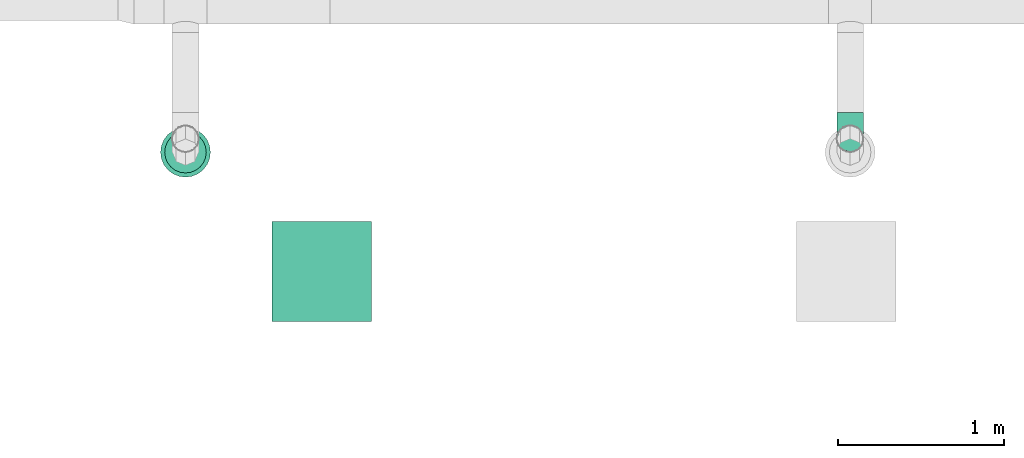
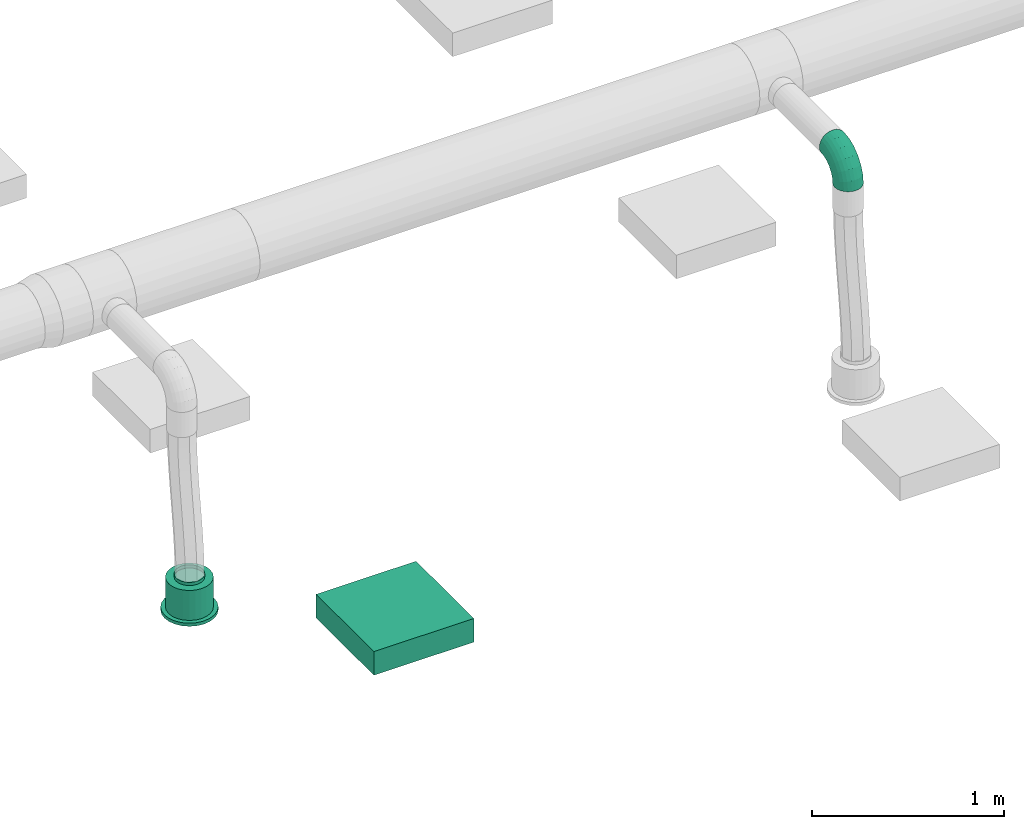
# One storey, part 59 of 374: 1 distribution element, 1 flow fitting, 1 flow terminal.
"""IFC2X3 building model written with IfcOpenShell, lengths in metres."""

from ifc_helpers import new_model, si_unit, direction, frame, frame_2d, origin, place, context, subcontext, project, spatial, rectangle, extrude, open_shell, surface_model, source, transform, mapped, element, save


model = new_model("IFC2X3")

# Units and contexts
model_context = context("Model", 3, precision=1e-05, world=origin(), true_north=direction((-0.4480736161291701, 0.8939966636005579)))
body_context = subcontext(model_context, "Body", "Model", "MODEL_VIEW")
ifc_project = project(units=[si_unit("LENGTHUNIT", "METRE"), si_unit("AREAUNIT", "SQUARE_METRE"), si_unit("VOLUMEUNIT", "CUBIC_METRE"), si_unit("PLANEANGLEUNIT", "RADIAN"), si_unit("THERMODYNAMICTEMPERATUREUNIT", "KELVIN"), si_unit("MASSUNIT", "GRAM", prefix="KILO"), si_unit("TIMEUNIT", "SECOND")], contexts=[model_context])

# Site, building, storey
site_placement = place(None, origin())
site = spatial("IfcSite", under=ifc_project, at=site_placement, Name="Site 1", CompositionType="ELEMENT")
building_placement = place(site_placement, origin())
building = spatial("IfcBuilding", under=site, at=building_placement, Name="Undefined", CompositionType="ELEMENT")
storey_placement = place(building_placement, origin())
storey = spatial("IfcBuildingStorey", under=building, at=storey_placement, Name="Rez de chauss\x8ee", CompositionType="ELEMENT", Elevation=0.0)

# Flow terminal
shared_shape_1 = source(origin(), body_context, "Body", "SurfaceModel", [
    surface_model("IfcFaceBasedSurfaceModel", [(0.0, 0.0, 0.0), (0.03915785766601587, 0.0, 0.0), (0.03915785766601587, 0.020000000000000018, 0.0), (3.552713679e-15, 0.020000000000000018, 0.0), (0.07698144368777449, 0.0, -0.010134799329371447), (0.07698144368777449, 0.020000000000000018, -0.010134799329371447), (0.11089314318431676, 0.0, -0.02971372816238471), (0.11089314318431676, 0.020000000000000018, -0.02971372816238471), (0.13858192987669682, 0.0, -0.05740251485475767), (0.13858192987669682, 0.020000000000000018, -0.05740251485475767), (0.15816085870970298, 0.0, -0.09131421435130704), (0.15816085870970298, 0.020000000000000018, -0.09131421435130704), (0.16829565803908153, 0.0, -0.12913780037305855), (0.16829565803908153, 0.020000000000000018, -0.12913780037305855), (0.16829565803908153, 0.0, -0.16829565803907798), (0.16829565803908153, 0.020000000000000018, -0.16829565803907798), (0.15816085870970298, 0.0, -0.20611924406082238), (0.15816085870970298, 0.020000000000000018, -0.20611924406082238), (0.13858192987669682, 0.0, -0.24003094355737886), (0.13858192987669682, 0.020000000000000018, -0.24003094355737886), (0.11089314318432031, 0.0, -0.2677197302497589), (0.11089314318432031, 0.020000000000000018, -0.2677197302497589), (0.07698144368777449, 0.0, -0.2872986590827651), (0.07698144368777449, 0.020000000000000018, -0.2872986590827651), (0.039157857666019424, 0.0, -0.29743345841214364), (0.039157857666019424, 0.020000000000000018, -0.29743345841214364), (3.552713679e-15, 0.0, -0.29743345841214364), (3.552713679e-15, 0.020000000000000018, -0.29743345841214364), (-0.03782358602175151, 0.0, -0.2872986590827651), (-0.03782358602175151, 0.020000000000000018, -0.2872986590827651), (-0.07173528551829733, 0.0, -0.2677197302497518), (-0.07173528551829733, 0.020000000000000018, -0.2677197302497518), (-0.0994240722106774, 0.0, -0.24003094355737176), (-0.0994240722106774, 0.020000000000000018, -0.24003094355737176), (-0.11900300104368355, 0.0, -0.2061192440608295), (-0.11900300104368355, 0.020000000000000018, -0.2061192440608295), (-0.1291378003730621, 0.0, -0.16829565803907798), (-0.1291378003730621, 0.020000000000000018, -0.16829565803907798), (-0.1291378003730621, 0.0, -0.12913780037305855), (-0.1291378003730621, 0.020000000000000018, -0.12913780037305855), (-0.11900300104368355, 0.0, -0.09131421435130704), (-0.11900300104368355, 0.020000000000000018, -0.09131421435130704), (-0.0994240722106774, 0.0, -0.05740251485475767), (-0.0994240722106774, 0.020000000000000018, -0.05740251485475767), (-0.07173528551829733, 0.0, -0.029713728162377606), (-0.07173528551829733, 0.020000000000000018, -0.029713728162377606), (-0.03782358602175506, 0.0, -0.010134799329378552), (-0.03782358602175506, 0.020000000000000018, -0.010134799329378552), (0.019578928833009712, 0.0, -0.14871672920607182), (0.019578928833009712, 0.020000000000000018, -0.14871672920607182), (0.003263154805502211, 0.020000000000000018, -0.02478612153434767), (0.035894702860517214, 0.020000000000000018, -0.02478612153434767), (0.035894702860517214, 0.20999999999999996, -0.02478612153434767), (0.003263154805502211, 0.20999999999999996, -0.02478612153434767), (0.06741435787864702, 0.020000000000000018, -0.033231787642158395), (0.06741435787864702, 0.20999999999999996, -0.033231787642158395), (0.0956741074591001, 0.020000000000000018, -0.04954756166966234), (0.0956741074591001, 0.20999999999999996, -0.04954756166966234), (0.11874809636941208, 0.020000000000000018, -0.07262155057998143), (0.11874809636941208, 0.20999999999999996, -0.07262155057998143), (0.13506387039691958, 0.020000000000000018, -0.10088130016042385), (0.13506387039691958, 0.20999999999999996, -0.10088130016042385), (0.1435095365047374, 0.020000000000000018, -0.13240095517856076), (0.1435095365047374, 0.20999999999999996, -0.13240095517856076), (0.1435095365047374, 0.020000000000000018, -0.16503250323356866), (0.1435095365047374, 0.20999999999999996, -0.16503250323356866), (0.13506387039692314, 0.020000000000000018, -0.19655215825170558), (0.13506387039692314, 0.20999999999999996, -0.19655215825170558), (0.11874809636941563, 0.020000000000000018, -0.2248119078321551), (0.11874809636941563, 0.20999999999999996, -0.2248119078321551), (0.09567410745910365, 0.020000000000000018, -0.24788589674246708), (0.09567410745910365, 0.20999999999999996, -0.24788589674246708), (0.06741435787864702, 0.020000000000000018, -0.26420167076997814), (0.06741435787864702, 0.20999999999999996, -0.26420167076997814), (0.035894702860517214, 0.020000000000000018, -0.27264733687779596), (0.035894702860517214, 0.20999999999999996, -0.27264733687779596), (0.0032631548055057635, 0.020000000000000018, -0.27264733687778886), (0.0032631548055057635, 0.20999999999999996, -0.27264733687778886), (-0.028256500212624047, 0.020000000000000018, -0.26420167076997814), (-0.028256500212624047, 0.20999999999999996, -0.26420167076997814), (-0.05651624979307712, 0.020000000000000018, -0.2478858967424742), (-0.05651624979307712, 0.20999999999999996, -0.2478858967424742), (-0.07959023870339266, 0.020000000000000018, -0.2248119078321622), (-0.07959023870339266, 0.20999999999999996, -0.2248119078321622), (-0.09590601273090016, 0.020000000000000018, -0.19655215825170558), (-0.09590601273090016, 0.20999999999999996, -0.19655215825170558), (-0.10435167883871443, 0.020000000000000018, -0.16503250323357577), (-0.10435167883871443, 0.20999999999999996, -0.16503250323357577), (-0.10435167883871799, 0.020000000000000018, -0.13240095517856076), (-0.10435167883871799, 0.20999999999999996, -0.13240095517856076), (-0.09590601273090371, 0.020000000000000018, -0.10088130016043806), (-0.09590601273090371, 0.20999999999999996, -0.10088130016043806), (-0.07959023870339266, 0.020000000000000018, -0.07262155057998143), (-0.07959023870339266, 0.20999999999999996, -0.07262155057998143), (-0.056516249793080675, 0.020000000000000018, -0.04954756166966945), (-0.056516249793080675, 0.20999999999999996, -0.04954756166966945), (-0.028256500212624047, 0.020000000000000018, -0.033231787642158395), (-0.028256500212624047, 0.20999999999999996, -0.033231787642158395), (0.019578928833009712, 0.20999999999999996, -0.14871672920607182), (0.009136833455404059, 0.20999999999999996, -0.06940114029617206), (0.030021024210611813, 0.20999999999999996, -0.06940114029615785), (0.030021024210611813, 0.22999999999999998, -0.06940114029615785), (0.009136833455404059, 0.22999999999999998, -0.06940114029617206), (0.05019360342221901, 0.20999999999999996, -0.07480636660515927), (0.05019360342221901, 0.22999999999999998, -0.07480636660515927), (0.06827984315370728, 0.20999999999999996, -0.08524846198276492), (0.06827984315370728, 0.22999999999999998, -0.08524846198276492), (0.0830471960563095, 0.20999999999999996, -0.10001581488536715), (0.0830471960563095, 0.22999999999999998, -0.10001581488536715), (0.0934892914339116, 0.20999999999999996, -0.11810205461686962), (0.0934892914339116, 0.22999999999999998, -0.11810205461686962), (0.09889451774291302, 0.20999999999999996, -0.13827463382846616), (0.09889451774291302, 0.22999999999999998, -0.13827463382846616), (0.09889451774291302, 0.20999999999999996, -0.15915882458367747), (0.09889451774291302, 0.22999999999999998, -0.15915882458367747), (0.09348929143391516, 0.20999999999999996, -0.179331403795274), (0.09348929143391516, 0.22999999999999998, -0.179331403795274), (0.0830471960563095, 0.20999999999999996, -0.19741764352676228), (0.0830471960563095, 0.22999999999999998, -0.19741764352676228), (0.06827984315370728, 0.20999999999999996, -0.2121849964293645), (0.06827984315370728, 0.22999999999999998, -0.2121849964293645), (0.05019360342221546, 0.20999999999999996, -0.22262709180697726), (0.05019360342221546, 0.22999999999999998, -0.22262709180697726), (0.030021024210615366, 0.20999999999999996, -0.22803231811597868), (0.030021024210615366, 0.22999999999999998, -0.22803231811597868), (0.009136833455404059, 0.20999999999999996, -0.22803231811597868), (0.009136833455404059, 0.22999999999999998, -0.22803231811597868), (-0.011035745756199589, 0.20999999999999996, -0.22262709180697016), (-0.011035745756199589, 0.22999999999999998, -0.22262709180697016), (-0.0291219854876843, 0.20999999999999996, -0.2121849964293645), (-0.0291219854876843, 0.22999999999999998, -0.2121849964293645), (-0.043889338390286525, 0.20999999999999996, -0.19741764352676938), (-0.043889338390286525, 0.22999999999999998, -0.19741764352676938), (-0.05433143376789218, 0.20999999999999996, -0.17933140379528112), (-0.05433143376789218, 0.22999999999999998, -0.17933140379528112), (-0.05973666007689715, 0.20999999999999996, -0.15915882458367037), (-0.05973666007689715, 0.22999999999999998, -0.15915882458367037), (-0.0597366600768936, 0.20999999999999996, -0.13827463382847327), (-0.0597366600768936, 0.22999999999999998, -0.13827463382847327), (-0.05433143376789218, 0.20999999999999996, -0.11810205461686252), (-0.05433143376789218, 0.22999999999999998, -0.11810205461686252), (-0.043889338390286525, 0.20999999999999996, -0.10001581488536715), (-0.043889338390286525, 0.22999999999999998, -0.10001581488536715), (-0.02912198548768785, 0.20999999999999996, -0.08524846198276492), (-0.02912198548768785, 0.22999999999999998, -0.08524846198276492), (-0.011035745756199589, 0.20999999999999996, -0.07480636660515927), (-0.011035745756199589, 0.22999999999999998, -0.07480636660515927)], [open_shell([[[0, 1, 2, 3]], [[1, 4, 5, 2]], [[4, 6, 7, 5]], [[6, 8, 9, 7]], [[8, 10, 11, 9]], [[10, 12, 13, 11]], [[12, 14, 15, 13]], [[14, 16, 17, 15]], [[16, 18, 19, 17]], [[18, 20, 21, 19]], [[20, 22, 23, 21]], [[22, 24, 25, 23]], [[24, 26, 27, 25]], [[26, 28, 29, 27]], [[28, 30, 31, 29]], [[30, 32, 33, 31]], [[32, 34, 35, 33]], [[34, 36, 37, 35]], [[36, 38, 39, 37]], [[38, 40, 41, 39]], [[40, 42, 43, 41]], [[42, 44, 45, 43]], [[44, 46, 47, 45]], [[46, 0, 3, 47]], [[48, 1, 0]], [[48, 4, 1]], [[48, 6, 4]], [[48, 8, 6]], [[48, 10, 8]], [[48, 12, 10]], [[48, 14, 12]], [[48, 16, 14]], [[48, 18, 16]], [[48, 20, 18]], [[48, 22, 20]], [[48, 24, 22]], [[48, 26, 24]], [[48, 28, 26]], [[48, 30, 28]], [[48, 32, 30]], [[48, 34, 32]], [[48, 36, 34]], [[48, 38, 36]], [[48, 40, 38]], [[48, 42, 40]], [[48, 44, 42]], [[48, 46, 44]], [[48, 0, 46]], [[49, 47, 3]], [[49, 45, 47]], [[49, 43, 45]], [[49, 41, 43]], [[49, 39, 41]], [[49, 37, 39]], [[49, 35, 37]], [[49, 33, 35]], [[49, 31, 33]], [[49, 29, 31]], [[49, 27, 29]], [[49, 25, 27]], [[49, 23, 25]], [[49, 21, 23]], [[49, 19, 21]], [[49, 17, 19]], [[49, 15, 17]], [[49, 13, 15]], [[49, 11, 13]], [[49, 9, 11]], [[49, 7, 9]], [[49, 5, 7]], [[49, 2, 5]], [[49, 3, 2]], [[50, 51, 52, 53]], [[51, 54, 55, 52]], [[54, 56, 57, 55]], [[56, 58, 59, 57]], [[58, 60, 61, 59]], [[60, 62, 63, 61]], [[62, 64, 65, 63]], [[64, 66, 67, 65]], [[66, 68, 69, 67]], [[68, 70, 71, 69]], [[70, 72, 73, 71]], [[72, 74, 75, 73]], [[74, 76, 77, 75]], [[76, 78, 79, 77]], [[78, 80, 81, 79]], [[80, 82, 83, 81]], [[82, 84, 85, 83]], [[84, 86, 87, 85]], [[86, 88, 89, 87]], [[88, 90, 91, 89]], [[90, 92, 93, 91]], [[92, 94, 95, 93]], [[94, 96, 97, 95]], [[96, 50, 53, 97]], [[49, 51, 50]], [[49, 54, 51]], [[49, 56, 54]], [[49, 58, 56]], [[49, 60, 58]], [[49, 62, 60]], [[49, 64, 62]], [[49, 66, 64]], [[49, 68, 66]], [[49, 70, 68]], [[49, 72, 70]], [[49, 74, 72]], [[49, 76, 74]], [[49, 78, 76]], [[49, 80, 78]], [[49, 82, 80]], [[49, 84, 82]], [[49, 86, 84]], [[49, 88, 86]], [[49, 90, 88]], [[49, 92, 90]], [[49, 94, 92]], [[49, 96, 94]], [[49, 50, 96]], [[98, 97, 53]], [[98, 95, 97]], [[98, 93, 95]], [[98, 91, 93]], [[98, 89, 91]], [[98, 87, 89]], [[98, 85, 87]], [[98, 83, 85]], [[98, 81, 83]], [[98, 79, 81]], [[98, 77, 79]], [[98, 75, 77]], [[98, 73, 75]], [[98, 71, 73]], [[98, 69, 71]], [[98, 67, 69]], [[98, 65, 67]], [[98, 63, 65]], [[98, 61, 63]], [[98, 59, 61]], [[98, 57, 59]], [[98, 55, 57]], [[98, 52, 55]], [[98, 53, 52]], [[99, 100, 101, 102]], [[100, 103, 104, 101]], [[103, 105, 106, 104]], [[105, 107, 108, 106]], [[107, 109, 110, 108]], [[109, 111, 112, 110]], [[111, 113, 114, 112]], [[113, 115, 116, 114]], [[115, 117, 118, 116]], [[117, 119, 120, 118]], [[119, 121, 122, 120]], [[121, 123, 124, 122]], [[123, 125, 126, 124]], [[125, 127, 128, 126]], [[127, 129, 130, 128]], [[129, 131, 132, 130]], [[131, 133, 134, 132]], [[133, 135, 136, 134]], [[135, 137, 138, 136]], [[137, 139, 140, 138]], [[139, 141, 142, 140]], [[141, 143, 144, 142]], [[143, 145, 146, 144]], [[145, 99, 102, 146]]])]),
])
flow_terminal_placement = place(storey_placement, origin())
element("IfcFlowTerminal", 1, at=flow_terminal_placement, inside=storey, Name="Air diffuseur - bouche", ObjectType="Air diffuseur - bouche", context=body_context, shape_type="MappedRepresentation", body=[
    mapped(shared_shape_1, transform((38.29000102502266, 2.0299997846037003, 2.38), x_axis=(-0.9914448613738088, -0.13052619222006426, 0.0), y_axis=(0.0, 0.0, 1.0), z_axis=(-0.13052619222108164, 0.9914448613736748, 0.0))),
])

# Flow fitting
shared_shape_2 = source(origin(), body_context, "Body", "SurfaceModel", [
    surface_model("IfcFaceBasedSurfaceModel", [(0.06265257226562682, -8.8817842e-16, 0.0), (0.062296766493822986, 0.02088115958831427, -7.105427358e-15), (0.0003558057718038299, 0.020881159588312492, 7.105427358e-15), (0.0, 0.0, 0.0), (-0.059474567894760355, 0.022956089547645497, -0.015896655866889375), (-0.06051773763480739, 0.002098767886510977, -0.01607928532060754), (-0.11311701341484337, 0.02696454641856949, -0.04660663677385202), (-0.11477645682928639, 0.006153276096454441, -0.04714207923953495), (-0.15691588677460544, 0.0326333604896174, -0.09003710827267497), (-0.15907851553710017, 0.01188721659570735, -0.09107150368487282), (-0.18788636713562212, 0.03957621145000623, -0.14322835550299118), (-0.1904048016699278, 0.01890983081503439, -0.14487384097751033), (-0.2039178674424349, 0.04731995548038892, -0.20255548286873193), (-0.20662048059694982, 0.026742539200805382, -0.20488255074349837), (0.061253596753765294, 0.04103889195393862, -0.0053597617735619), (0.0013989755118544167, 0.04103889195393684, -0.005359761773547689), (-0.05641614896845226, 0.04304393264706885, -0.02072097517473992), (-0.10825177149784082, 0.04691737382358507, -0.050396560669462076), (-0.15057538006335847, 0.05239524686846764, -0.09236417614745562), (-0.18050269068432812, 0.05910424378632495, -0.14376379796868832), (-0.19599420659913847, 0.06658715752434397, -0.20109262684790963), (0.05959415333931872, 0.05909948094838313, -0.01571402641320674), (0.003058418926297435, 0.05909948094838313, -0.01571402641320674), (-0.05155090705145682, 0.06099334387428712, -0.030223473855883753), (-0.10051228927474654, 0.06465200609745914, -0.058253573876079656), (-0.1404890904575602, 0.0698261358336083, -0.09789412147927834), (-0.16875695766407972, 0.0761631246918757, -0.14644367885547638), (-0.18338948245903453, 0.08323111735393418, -0.2005936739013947), (0.057431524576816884, 0.07383212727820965, -0.030357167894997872), (0.005221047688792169, 0.07383212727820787, -0.03035716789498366), (-0.0452104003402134, 0.07558110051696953, -0.04375657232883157), (-0.09042599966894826, 0.07895985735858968, -0.06964223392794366), (-0.12734438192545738, 0.08373814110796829, -0.10625008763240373), (-0.15344962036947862, 0.08959031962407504, -0.15108536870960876), (-0.16696268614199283, 0.0961175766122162, -0.20109262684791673), (0.054913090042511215, 0.0842328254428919, -0.048291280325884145), (0.007739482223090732, 0.08423282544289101, -0.04829128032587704), (-0.037826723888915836, 0.08581307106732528, -0.06039801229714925), (-0.07868026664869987, 0.08886587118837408, -0.08378642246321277), (-0.11203704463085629, 0.09318318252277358, -0.11686262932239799), (-0.13562384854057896, 0.09847078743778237, -0.1573725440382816), (-0.14783327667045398, 0.10436834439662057, -0.20255548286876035), (0.05221047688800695, 0.0895927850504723, -0.06829418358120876), (0.010442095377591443, 0.08959278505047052, -0.06829418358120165), (-0.029903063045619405, 0.09099196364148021, -0.07901370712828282), (-0.06607554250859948, 0.09369496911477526, -0.0997222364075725), (-0.0956102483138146, 0.0975175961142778, -0.12900851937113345), (-0.11649443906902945, 0.10219933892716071, -0.16487674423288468), (-0.12730489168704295, 0.1074211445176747, -0.2048825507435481), (0.04950786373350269, 0.08954673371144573, -0.08900271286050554), (0.013144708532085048, 0.08954673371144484, -0.08900271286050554), (-0.02197940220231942, 0.09076484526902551, -0.09833502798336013), (-0.05347081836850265, 0.09311805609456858, -0.11636367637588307), (-0.0791834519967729, 0.09644599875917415, -0.14186003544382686), (-0.09736502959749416, 0.10052187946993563, -0.17308657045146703), (-0.10677650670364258, 0.1050679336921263, -0.20791524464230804), (0.04698942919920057, 0.08409780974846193, -0.10900561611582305), (0.015663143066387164, 0.08409780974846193, -0.10900561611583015), (-0.014595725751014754, 0.08514719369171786, -0.11704525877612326), (-0.0417250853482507, 0.0871744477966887, -0.13257665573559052), (-0.06387611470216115, 0.09004141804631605, -0.15454136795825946), (-0.07953925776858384, 0.09355272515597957, -0.1814425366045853), (-0.08764709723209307, 0.09746907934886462, -0.21144689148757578), (0.04482680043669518, 0.0736173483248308, -0.12693972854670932), (0.017825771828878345, 0.0736173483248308, -0.12693972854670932), (-0.008255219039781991, 0.07452184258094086, -0.13386932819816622), (-0.03163879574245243, 0.0762691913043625, -0.14725628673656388), (-0.050731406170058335, 0.07874031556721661, -0.1661883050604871), (-0.06423192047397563, 0.08176681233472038, -0.18937519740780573), (-0.07122030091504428, 0.08514243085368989, -0.21523681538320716), (0.04316735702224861, 0.058819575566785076, -0.14158287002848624), (0.019485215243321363, 0.058819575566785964, -0.14158287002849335), (-0.0033899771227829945, 0.05961289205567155, -0.14766070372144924), (-0.02389931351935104, 0.06114546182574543, -0.15940217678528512), (-0.04064511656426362, 0.06331284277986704, -0.17600712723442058), (-0.052486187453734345, 0.06596733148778, -0.19634395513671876), (-0.05861557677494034, 0.06892802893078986, -0.2190267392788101), (0.04212418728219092, 0.040712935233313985, -0.15193713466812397), (0.020528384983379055, 0.040712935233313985, -0.15193713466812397), (-0.0003315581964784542, 0.041436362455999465, -0.15747952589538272), (-0.019034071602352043, 0.04283391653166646, -0.16818660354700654), (-0.03430460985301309, 0.04481035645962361, -0.1833286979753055), (-0.04510251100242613, 0.047230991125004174, -0.20187390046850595), (-0.05069191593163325, 0.04993085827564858, -0.22255838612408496), (0.04176838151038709, 0.02053136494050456, -0.15729689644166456), (0.020884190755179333, 0.02053136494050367, -0.15729689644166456), (0.0007116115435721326, 0.021230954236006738, -0.16265665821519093), (-0.017374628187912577, 0.022582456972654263, -0.17301092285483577), (-0.03214198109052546, 0.024493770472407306, -0.1876540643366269), (-0.042584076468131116, 0.026834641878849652, -0.20558817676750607), (-0.04798930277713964, 0.02944554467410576, -0.22559108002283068), (0.04212418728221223, -0.000349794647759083, -0.15729689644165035), (0.020528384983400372, -0.000349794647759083, -0.15729689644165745), (-0.0003315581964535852, 0.00037363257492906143, -0.1628392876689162), (-0.019034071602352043, 0.0017711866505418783, -0.17354636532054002), (-0.03430460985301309, 0.0037476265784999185, -0.18868845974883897), (-0.04510251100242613, 0.00616826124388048, -0.20723366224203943), (-0.05069191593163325, 0.008868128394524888, -0.22791814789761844), (0.04316735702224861, -0.020507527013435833, -0.15193713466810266), (0.019485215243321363, -0.020507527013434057, -0.15193713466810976), (-0.0033899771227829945, -0.019714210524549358, -0.15801496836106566), (-0.02389931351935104, -0.01818164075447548, -0.16975644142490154), (-0.04064511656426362, -0.01601425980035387, -0.186361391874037), (-0.052486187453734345, -0.013359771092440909, -0.20669821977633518), (-0.05861557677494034, -0.010399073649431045, -0.22938100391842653), (0.04482680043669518, -0.03856811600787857, -0.1415828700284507), (0.017825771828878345, -0.03856811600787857, -0.1415828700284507), (-0.008255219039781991, -0.03766362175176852, -0.1485124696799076), (-0.03163879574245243, -0.03591627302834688, -0.16189942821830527), (-0.050731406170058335, -0.03344514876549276, -0.1808314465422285), (-0.06423192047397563, -0.030418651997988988, -0.20401833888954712), (-0.07122030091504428, -0.027043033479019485, -0.22987995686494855), (0.04698942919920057, -0.05330076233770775, -0.12693972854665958), (0.015663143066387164, -0.05330076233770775, -0.12693972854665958), (-0.014595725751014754, -0.05225137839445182, -0.1349793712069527), (-0.0417250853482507, -0.05022412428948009, -0.15051076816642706), (-0.06387611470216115, -0.047357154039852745, -0.172475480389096), (-0.07953925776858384, -0.043845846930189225, -0.19937664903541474), (-0.08764709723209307, -0.03992949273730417, -0.2293810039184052), (0.04950786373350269, -0.06370146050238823, -0.10900561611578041), (0.013144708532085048, -0.06370146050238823, -0.10900561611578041), (-0.02197940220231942, -0.06248334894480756, -0.11833793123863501), (-0.05347081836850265, -0.06013013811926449, -0.13636657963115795), (-0.0791834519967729, -0.05680219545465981, -0.16186293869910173), (-0.09736502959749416, -0.05272631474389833, -0.1930894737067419), (-0.10677650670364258, -0.04818026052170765, -0.2279181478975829), (0.05221047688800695, -0.06906142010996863, -0.08900271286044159), (0.010442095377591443, -0.06906142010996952, -0.08900271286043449), (-0.029903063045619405, -0.06766224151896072, -0.09972223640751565), (-0.06607554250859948, -0.06495923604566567, -0.12043076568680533), (-0.0956102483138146, -0.06113660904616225, -0.14971704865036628), (-0.11649443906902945, -0.05645486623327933, -0.1855852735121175), (-0.12730489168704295, -0.05123306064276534, -0.22559108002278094), (0.054913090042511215, -0.06901536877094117, -0.06829418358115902), (0.007739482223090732, -0.06901536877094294, -0.06829418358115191), (-0.037826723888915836, -0.06743512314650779, -0.08040091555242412), (-0.07868026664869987, -0.06438232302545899, -0.10378932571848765), (-0.11203704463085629, -0.06006501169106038, -0.13686553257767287), (-0.13562384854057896, -0.0547774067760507, -0.17737544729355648), (-0.14783327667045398, -0.04887984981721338, -0.22255838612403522), (0.057431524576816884, -0.06356644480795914, -0.0482912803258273), (0.005221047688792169, -0.06356644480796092, -0.04829128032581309), (-0.0452104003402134, -0.061817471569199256, -0.0616906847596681), (-0.09042599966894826, -0.05843871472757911, -0.0875763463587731), (-0.12734438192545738, -0.05366043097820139, -0.12418420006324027), (-0.15344962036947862, -0.04780825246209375, -0.1690194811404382), (-0.16696268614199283, -0.041280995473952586, -0.21902673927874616), (0.05959415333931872, -0.05308598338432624, -0.030357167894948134), (0.003058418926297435, -0.05308598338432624, -0.030357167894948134), (-0.05155090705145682, -0.05119212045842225, -0.04486661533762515), (-0.10051228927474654, -0.04753345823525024, -0.07289671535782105), (-0.1404890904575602, -0.04235932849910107, -0.11253726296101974), (-0.16875695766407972, -0.03602233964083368, -0.16108682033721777), (-0.18338948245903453, -0.02895434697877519, -0.2152368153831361), (0.061253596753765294, -0.03828821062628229, -0.015714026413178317), (0.0013989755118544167, -0.03828821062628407, -0.015714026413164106), (-0.05641614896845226, -0.03628316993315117, -0.031075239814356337), (-0.10825177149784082, -0.03240972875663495, -0.06075082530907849), (-0.15057538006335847, -0.026931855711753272, -0.10271844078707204), (-0.18050269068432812, -0.02022285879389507, -0.15411806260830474), (-0.19599420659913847, -0.012739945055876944, -0.21144689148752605), (0.062296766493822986, -0.020181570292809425, -0.005359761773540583), (0.0003558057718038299, -0.020181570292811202, -0.0053597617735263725), (-0.059474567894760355, -0.018106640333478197, -0.021256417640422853), (-0.11311701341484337, -0.014098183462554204, -0.051966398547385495), (-0.15691588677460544, -0.00842936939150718, -0.09539687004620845), (-0.18788636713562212, -0.0014865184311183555, -0.14858811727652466), (-0.2039178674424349, 0.006257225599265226, -0.2079152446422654)], [open_shell([[[0, 1, 2, 3]], [[3, 2, 4, 5]], [[5, 4, 6, 7]], [[7, 6, 8, 9]], [[9, 8, 10, 11]], [[11, 10, 12, 13]], [[1, 14, 15, 2]], [[2, 15, 16, 4]], [[4, 16, 17, 6]], [[6, 17, 18, 8]], [[8, 18, 19, 10]], [[10, 19, 20, 12]], [[14, 21, 22, 15]], [[15, 22, 23, 16]], [[16, 23, 24, 17]], [[17, 24, 25, 18]], [[18, 25, 26, 19]], [[19, 26, 27, 20]], [[21, 28, 29, 22]], [[22, 29, 30, 23]], [[23, 30, 31, 24]], [[24, 31, 32, 25]], [[25, 32, 33, 26]], [[26, 33, 34, 27]], [[28, 35, 36, 29]], [[29, 36, 37, 30]], [[30, 37, 38, 31]], [[31, 38, 39, 32]], [[32, 39, 40, 33]], [[33, 40, 41, 34]], [[35, 42, 43, 36]], [[36, 43, 44, 37]], [[37, 44, 45, 38]], [[38, 45, 46, 39]], [[39, 46, 47, 40]], [[40, 47, 48, 41]], [[42, 49, 50, 43]], [[43, 50, 51, 44]], [[44, 51, 52, 45]], [[45, 52, 53, 46]], [[46, 53, 54, 47]], [[47, 54, 55, 48]], [[49, 56, 57, 50]], [[50, 57, 58, 51]], [[51, 58, 59, 52]], [[52, 59, 60, 53]], [[53, 60, 61, 54]], [[54, 61, 62, 55]], [[56, 63, 64, 57]], [[57, 64, 65, 58]], [[58, 65, 66, 59]], [[59, 66, 67, 60]], [[60, 67, 68, 61]], [[61, 68, 69, 62]], [[63, 70, 71, 64]], [[64, 71, 72, 65]], [[65, 72, 73, 66]], [[66, 73, 74, 67]], [[67, 74, 75, 68]], [[68, 75, 76, 69]], [[70, 77, 78, 71]], [[71, 78, 79, 72]], [[72, 79, 80, 73]], [[73, 80, 81, 74]], [[74, 81, 82, 75]], [[75, 82, 83, 76]], [[77, 84, 85, 78]], [[78, 85, 86, 79]], [[79, 86, 87, 80]], [[80, 87, 88, 81]], [[81, 88, 89, 82]], [[82, 89, 90, 83]], [[84, 91, 92, 85]], [[85, 92, 93, 86]], [[86, 93, 94, 87]], [[87, 94, 95, 88]], [[88, 95, 96, 89]], [[89, 96, 97, 90]], [[91, 98, 99, 92]], [[92, 99, 100, 93]], [[93, 100, 101, 94]], [[94, 101, 102, 95]], [[95, 102, 103, 96]], [[96, 103, 104, 97]], [[98, 105, 106, 99]], [[99, 106, 107, 100]], [[100, 107, 108, 101]], [[101, 108, 109, 102]], [[102, 109, 110, 103]], [[103, 110, 111, 104]], [[105, 112, 113, 106]], [[106, 113, 114, 107]], [[107, 114, 115, 108]], [[108, 115, 116, 109]], [[109, 116, 117, 110]], [[110, 117, 118, 111]], [[112, 119, 120, 113]], [[113, 120, 121, 114]], [[114, 121, 122, 115]], [[115, 122, 123, 116]], [[116, 123, 124, 117]], [[117, 124, 125, 118]], [[119, 126, 127, 120]], [[120, 127, 128, 121]], [[121, 128, 129, 122]], [[122, 129, 130, 123]], [[123, 130, 131, 124]], [[124, 131, 132, 125]], [[126, 133, 134, 127]], [[127, 134, 135, 128]], [[128, 135, 136, 129]], [[129, 136, 137, 130]], [[130, 137, 138, 131]], [[131, 138, 139, 132]], [[133, 140, 141, 134]], [[134, 141, 142, 135]], [[135, 142, 143, 136]], [[136, 143, 144, 137]], [[137, 144, 145, 138]], [[138, 145, 146, 139]], [[140, 147, 148, 141]], [[141, 148, 149, 142]], [[142, 149, 150, 143]], [[143, 150, 151, 144]], [[144, 151, 152, 145]], [[145, 152, 153, 146]], [[147, 154, 155, 148]], [[148, 155, 156, 149]], [[149, 156, 157, 150]], [[150, 157, 158, 151]], [[151, 158, 159, 152]], [[152, 159, 160, 153]], [[154, 161, 162, 155]], [[155, 162, 163, 156]], [[156, 163, 164, 157]], [[157, 164, 165, 158]], [[158, 165, 166, 159]], [[159, 166, 167, 160]], [[161, 0, 3, 162]], [[162, 3, 5, 163]], [[163, 5, 7, 164]], [[164, 7, 9, 165]], [[165, 9, 11, 166]], [[166, 11, 13, 167]]])]),
])
flow_fitting_placement = place(storey_placement, origin())
element("IfcFlowFitting", 2, at=flow_fitting_placement, inside=storey, Name="Coude", ObjectType="Coude", context=body_context, shape_type="MappedRepresentation", body=[
    mapped(shared_shape_2, transform((42.29000111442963, 1.8881775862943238, 3.702116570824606), x_axis=(9.56658874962e-13, -0.13052619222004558, -0.9914448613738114), y_axis=(0.9915887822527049, 0.12832103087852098, -0.01689378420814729), z_axis=(0.12942830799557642, -0.983105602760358, 0.1294283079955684))),
])

# Distribution element
distribution_element_placement = place(storey_placement, origin())
element("IfcDistributionElement", 3, at=distribution_element_placement, inside=storey, Name="Decken-Rechteckleuchte mit Rahmen AP", ObjectType="Decken-Rechteckleuchte mit Rahmen AP", context=body_context, shape_type="SweptSolid", body=[
    extrude(rectangle(XDim=0.6000000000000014, YDim=0.6000000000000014, at=frame_2d((3.552713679e-15, 0.0), x_axis=(0.0, 1.0))), frame((39.10965292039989, 1.1625, 2.5500000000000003), z_axis=(0.0, 0.0, -1.0), x_axis=(1.0, 0.0, 0.0)), (0.0, 0.0, 1.0), 0.15),
])

save(model, "model.ifc")
